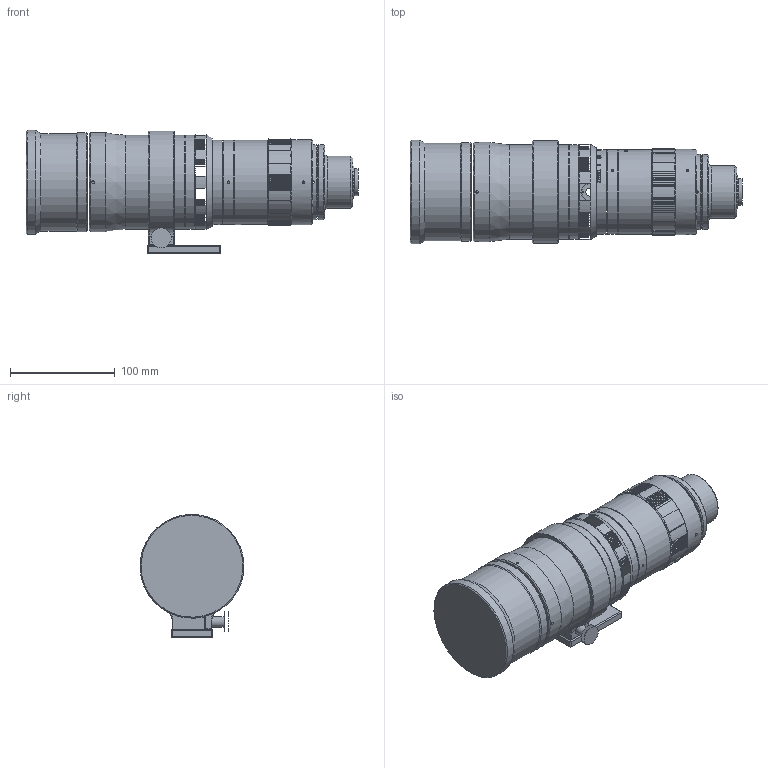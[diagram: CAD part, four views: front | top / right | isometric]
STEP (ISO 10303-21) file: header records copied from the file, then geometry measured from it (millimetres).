
FILE_DESCRIPTION((''),'2;1');
FILE_NAME('C:\Documents and Settings\tbosotti\Desktop\C0245_025.stp','2014-04-28T11:59:57',('tbosotti'),(''),'Autodesk Inventor 2010','Autodesk Inventor 2010','');
FILE_SCHEMA(('AUTOMOTIVE_DESIGN { 1 0 10303 214 1 1 1 1 }'));
Length unit declared in the file: millimetre
Products named in the file (2): C0245_025_000.iam (Livello di dettaglio sostituto1); C0245_025
Assembly tree (1 placements, depth 2):
  C0245_025_000.iam (Livello di dettaglio sostituto1)
    C0245_025
Bounding box: 316.31 x 98.91 x 117.46 mm (x, y, z)
Surface area: 189594 mm2 (no closed solid volume)
Topology: 0 solids, 41 shells, 326 faces, 2522 edges, 2143 vertices
Faces by surface type: plane 149, cylinder 96, cone 59, bspline 22
Full cylindrical faces by diameter (mm): 2.459 x1, 4.978 x1, 7.798 x1, 10 x1, 24.1 x1, 25.4 x1, 50 x1, 65.5 x1, 69.5 x1, 71.5 x2, 72.5 x1, 80.5 x2, 81 x1, 88 x1, 89.8 x2, 93 x1, 94.4 x2, 99 x1
Entity records: 39101 total; most frequent: CARTESIAN_POINT 23534, ORIENTED_EDGE 2888, DIRECTION 2698, EDGE_CURVE 2422, VERTEX_POINT 2113, AXIS2_PLACEMENT_3D 1079, CIRCLE 772, VECTOR 540
